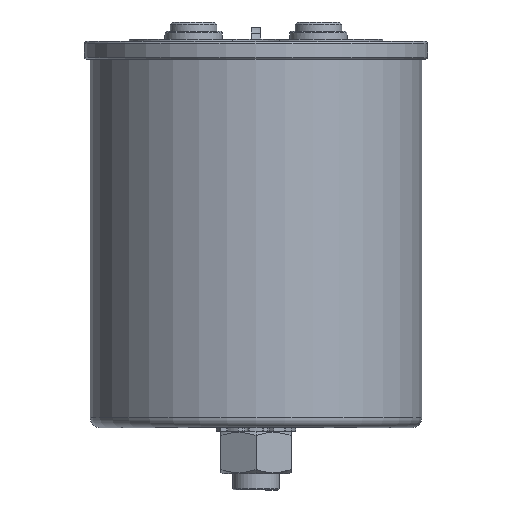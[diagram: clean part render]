
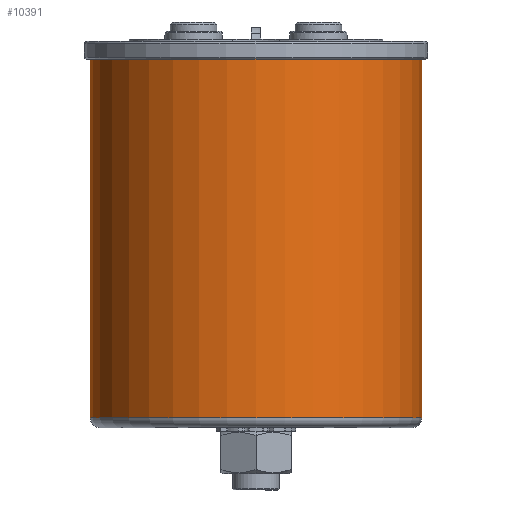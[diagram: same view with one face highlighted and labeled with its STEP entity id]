
A CAD part, left-side view. The second image highlights one B-rep face of the part: STEP entity #10391.
In plain terms, the highlighted cylindrical face has radius 42.5 mm (diameter 85 mm), a partial arc.
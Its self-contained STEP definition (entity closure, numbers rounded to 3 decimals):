
#121 = DIRECTION ( 'NONE',  ( 0., 0., -1. ) ) ;
#1064 = DIRECTION ( 'NONE',  ( 0., 0., -1. ) ) ;
#1137 = EDGE_LOOP ( 'NONE', ( #5514, #6260, #1705, #5106 ) ) ;
#1437 = DIRECTION ( 'NONE',  ( 0., 0., -1. ) ) ;
#1546 = CARTESIAN_POINT ( 'NONE',  ( 0., -42.5, -95. ) ) ;
#1705 = ORIENTED_EDGE ( 'NONE', *, *, #2010, .T. ) ;
#1853 = DIRECTION ( 'NONE',  ( 0., 0., 1. ) ) ;
#2010 = EDGE_CURVE ( 'NONE', #14016, #11716, #11540, .T. ) ;
#2432 = AXIS2_PLACEMENT_3D ( 'NONE', #14073, #121, #4760 ) ;
#2729 = CYLINDRICAL_SURFACE ( 'NONE', #13564, 42.5 ) ;
#2847 = AXIS2_PLACEMENT_3D ( 'NONE', #4189, #1853, #13447 ) ;
#3171 = CARTESIAN_POINT ( 'NONE',  ( 0., 42.5, -92.5 ) ) ;
#3317 = CARTESIAN_POINT ( 'NONE',  ( 0., 0., -95. ) ) ;
#3813 = CIRCLE ( 'NONE', #2432, 42.5 ) ;
#4189 = CARTESIAN_POINT ( 'NONE',  ( 0., 0., -92.5 ) ) ;
#4760 = DIRECTION ( 'NONE',  ( 0., -1., 0. ) ) ;
#5106 = ORIENTED_EDGE ( 'NONE', *, *, #11429, .F. ) ;
#5514 = ORIENTED_EDGE ( 'NONE', *, *, #6724, .T. ) ;
#5931 = VECTOR ( 'NONE', #8572, 1000. ) ;
#6260 = ORIENTED_EDGE ( 'NONE', *, *, #13792, .T. ) ;
#6472 = CARTESIAN_POINT ( 'NONE',  ( 0., 42.5, 0. ) ) ;
#6724 = EDGE_CURVE ( 'NONE', #12798, #14467, #3813, .T. ) ;
#8036 = DIRECTION ( 'NONE',  ( 0., -1., 0. ) ) ;
#8354 = LINE ( 'NONE', #1546, #11444 ) ;
#8572 = DIRECTION ( 'NONE',  ( 0., 0., -1. ) ) ;
#10391 = ADVANCED_FACE ( 'NONE', ( #12184 ), #2729, .T. ) ;
#11429 = EDGE_CURVE ( 'NONE', #12798, #11716, #8354, .T. ) ;
#11444 = VECTOR ( 'NONE', #1437, 1000. ) ;
#11540 = CIRCLE ( 'NONE', #2847, 42.5 ) ;
#11716 = VERTEX_POINT ( 'NONE', #14854 ) ;
#12184 = FACE_OUTER_BOUND ( 'NONE', #1137, .T. ) ;
#12798 = VERTEX_POINT ( 'NONE', #14540 ) ;
#13447 = DIRECTION ( 'NONE',  ( 0., -1., 0. ) ) ;
#13564 = AXIS2_PLACEMENT_3D ( 'NONE', #3317, #1064, #8036 ) ;
#13792 = EDGE_CURVE ( 'NONE', #14467, #14016, #13933, .T. ) ;
#13933 = LINE ( 'NONE', #14366, #5931 ) ;
#14016 = VERTEX_POINT ( 'NONE', #3171 ) ;
#14073 = CARTESIAN_POINT ( 'NONE',  ( 0., 0., 0. ) ) ;
#14366 = CARTESIAN_POINT ( 'NONE',  ( 0., 42.5, -95. ) ) ;
#14467 = VERTEX_POINT ( 'NONE', #6472 ) ;
#14540 = CARTESIAN_POINT ( 'NONE',  ( 0., -42.5, 0. ) ) ;
#14854 = CARTESIAN_POINT ( 'NONE',  ( 0., -42.5, -92.5 ) ) ;
